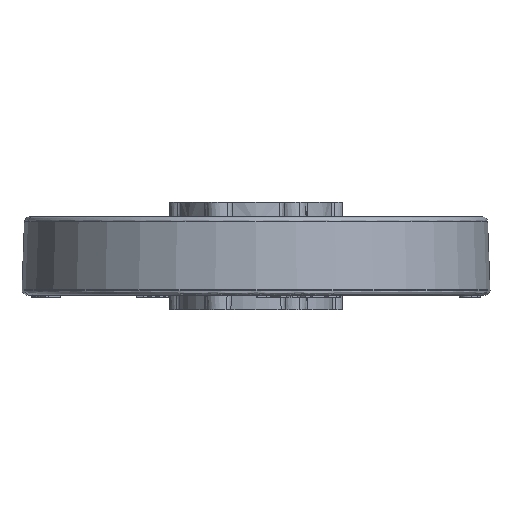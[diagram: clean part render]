
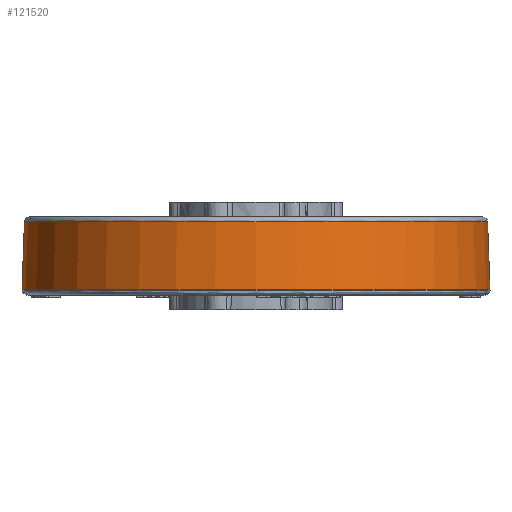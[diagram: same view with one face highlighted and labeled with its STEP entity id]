
A CAD part, front view. The second image highlights one B-rep face of the part: STEP entity #121520.
In plain terms, the highlighted conical face has half-angle 2 degrees and reference radius 0.035 mm.
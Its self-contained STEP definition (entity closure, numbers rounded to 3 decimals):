
#121479=CARTESIAN_POINT('',(0.0,0.0,2181.083));
#121480=DIRECTION('',(0.0,0.0,-1.0));
#121481=DIRECTION('',(1.0,0.0,0.0));
#121482=AXIS2_PLACEMENT_3D('',#121479,#121480,#121481);
#121483=CONICAL_SURFACE('',#121482,0.035,2.);
#121484=CARTESIAN_POINT('',(-76.143,0.,1.643));
#121485=VERTEX_POINT('',#121484);
#121486=CARTESIAN_POINT('',(-75.367,0.0,23.868));
#121487=VERTEX_POINT('',#121486);
#121488=CARTESIAN_POINT('',(-76.143,0.,1.643));
#121489=DIRECTION('',(0.035,0.,0.999));
#121490=VECTOR('',#121489,22.239);
#121491=LINE('',#121488,#121490);
#121492=EDGE_CURVE('',#121485,#121487,#121491,.T.);
#121493=ORIENTED_EDGE('',*,*,#121492,.F.);
#121494=CARTESIAN_POINT('',(76.143,0.0,1.643));
#121495=VERTEX_POINT('',#121494);
#121496=CARTESIAN_POINT('',(0.0,0.0,1.643));
#121497=DIRECTION('',(0.0,0.0,1.0));
#121498=DIRECTION('',(1.0,0.0,0.0));
#121499=AXIS2_PLACEMENT_3D('',#121496,#121497,#121498);
#121500=CIRCLE('',#121499,76.143);
#121501=EDGE_CURVE('',#121485,#121495,#121500,.T.);
#121502=ORIENTED_EDGE('',*,*,#121501,.T.);
#121503=CARTESIAN_POINT('',(75.367,0.0,23.868));
#121504=VERTEX_POINT('',#121503);
#121505=CARTESIAN_POINT('',(76.143,0.0,1.643));
#121506=DIRECTION('',(-0.035,0.0,0.999));
#121507=VECTOR('',#121506,22.239);
#121508=LINE('',#121505,#121507);
#121509=EDGE_CURVE('',#121495,#121504,#121508,.T.);
#121510=ORIENTED_EDGE('',*,*,#121509,.T.);
#121511=CARTESIAN_POINT('',(0.0,0.0,23.868));
#121512=DIRECTION('',(0.0,0.0,-1.0));
#121513=DIRECTION('',(1.0,0.0,0.0));
#121514=AXIS2_PLACEMENT_3D('',#121511,#121512,#121513);
#121515=CIRCLE('',#121514,75.367);
#121516=EDGE_CURVE('',#121504,#121487,#121515,.T.);
#121517=ORIENTED_EDGE('',*,*,#121516,.T.);
#121518=EDGE_LOOP('',(#121493,#121502,#121510,#121517));
#121519=FACE_OUTER_BOUND('',#121518,.T.);
#121520=ADVANCED_FACE('',(#121519),#121483,.T.);
